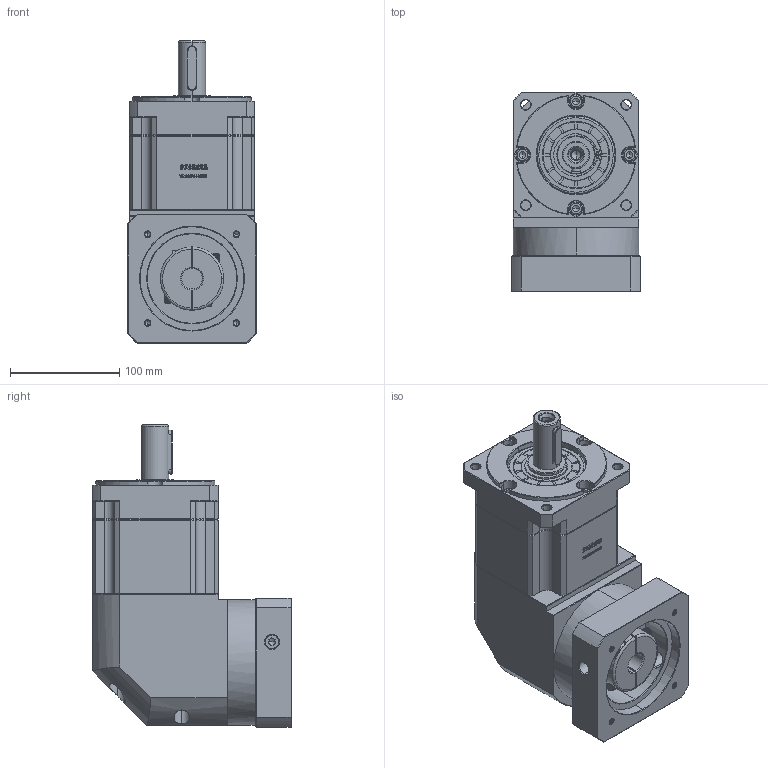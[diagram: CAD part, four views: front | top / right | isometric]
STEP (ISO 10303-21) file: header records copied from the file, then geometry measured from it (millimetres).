
FILE_DESCRIPTION (( 'STEP AP214' ), '1' );
FILE_NAME ('ZBR115A-D25-L2-19-95-115-M6.step', '2023-03-03T04:56:17', ( '' ), ( 'Microsoft' ), 'SwSTEP 2.0', 'SolidWorks 2016', '' );
FILE_SCHEMA (( 'AUTOMOTIVE_DESIGN' ));
Length unit declared in the file: millimetre
Products named in the file (1): ZBR115A-D25-L2-19-95-115-M6
Bounding box: 118 x 182.4 x 276.5 mm (x, y, z)
Volume: 3192418.9 mm3; surface area: 250682.2 mm2
Topology: 6 solids, 6 shells, 2969 faces, 7880 edges, 5056 vertices
Faces by surface type: plane 1558, bspline 610, cylinder 424, cone 369, torus 8
Entity records: 162104 total; most frequent: CARTESIAN_POINT 60538, ORIENTED_EDGE 15700, DIRECTION 11897, EDGE_CURVE 7850, LINE 5287, VECTOR 5287, VERTEX_POINT 5056, AXIS2_PLACEMENT_3D 3305
